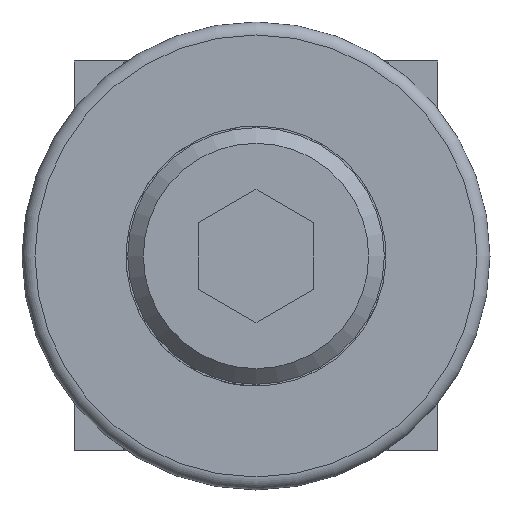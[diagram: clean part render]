
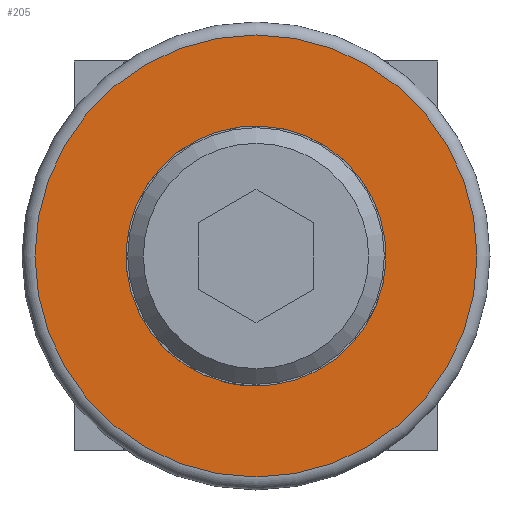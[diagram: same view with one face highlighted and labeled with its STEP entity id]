
A CAD part, front view. The second image highlights one B-rep face of the part: STEP entity #205.
In plain terms, the highlighted planar face has unit normal (0, -1, 0) as drawn and (0, 0, 1) by its records, which use the part's own axes.
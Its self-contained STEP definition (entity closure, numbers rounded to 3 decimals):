
#205=ADVANCED_FACE('',(#361,#362),#363,.T.);
#361=FACE_BOUND('',#499,.T.);
#362=FACE_OUTER_BOUND('',#500,.T.);
#363=PLANE('',#501);
#499=EDGE_LOOP('',(#729));
#500=EDGE_LOOP('',(#730));
#501=AXIS2_PLACEMENT_3D('',#731,#732,#733);
#729=ORIENTED_EDGE('',*,*,#924,.T.);
#730=ORIENTED_EDGE('',*,*,#900,.T.);
#731=CARTESIAN_POINT('',(9.0,9.0,4.0));
#732=DIRECTION('',(0.0,0.0,1.0));
#733=DIRECTION('',(1.0,0.0,0.0));
#900=EDGE_CURVE('',#1050,#1050,#1051,.T.);
#924=EDGE_CURVE('',#1082,#1082,#1083,.T.);
#1050=VERTEX_POINT('',#1246);
#1051=CIRCLE('',#1247,8.5);
#1082=VERTEX_POINT('',#1286);
#1083=CIRCLE('',#1287,3.25);
#1246=CARTESIAN_POINT('',(17.5,9.0,4.0));
#1247=AXIS2_PLACEMENT_3D('',#1397,#1398,#1399);
#1286=CARTESIAN_POINT('',(12.25,9.0,4.0));
#1287=AXIS2_PLACEMENT_3D('',#1420,#1421,#1422);
#1397=CARTESIAN_POINT('',(9.0,9.0,4.0));
#1398=DIRECTION('',(0.0,0.0,1.0));
#1399=DIRECTION('',(1.0,0.0,0.0));
#1420=CARTESIAN_POINT('',(9.0,9.0,4.0));
#1421=DIRECTION('',(0.0,0.0,-1.0));
#1422=DIRECTION('',(1.0,0.0,0.0));
